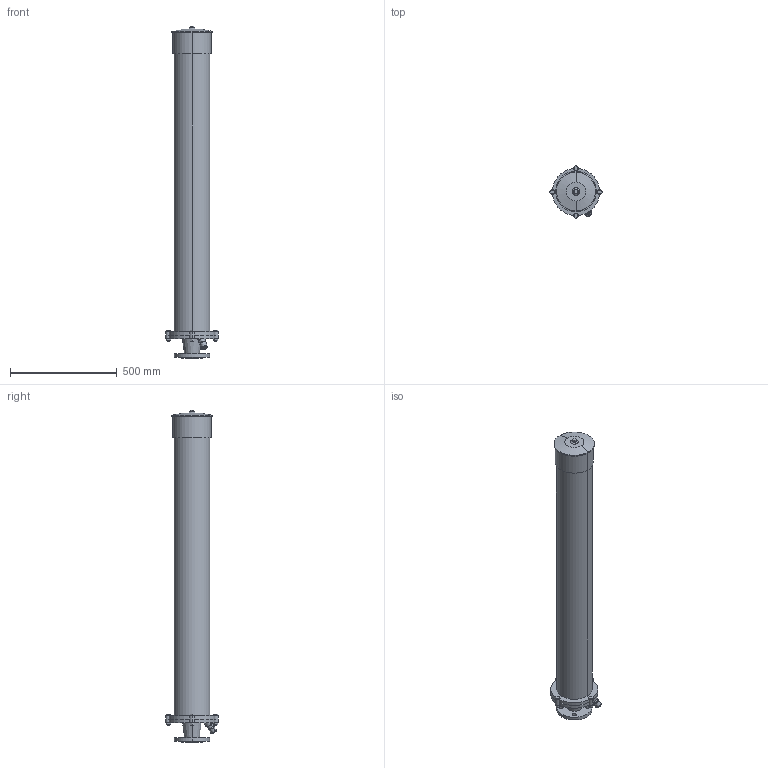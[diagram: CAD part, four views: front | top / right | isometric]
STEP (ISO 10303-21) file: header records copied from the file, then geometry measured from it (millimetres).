
FILE_DESCRIPTION(('STEP AP214'),'1');
FILE_NAME('S:/EK/USER/CAT6/3DHomepage/9822/9822-PN16-DN50-1555.STP','2012-04-26T08:04:58',(' '),(' '),'Spatial InterOp 3D',' ',' ');
FILE_SCHEMA(('automotive_design'));
Length unit declared in the file: millimetre
Products named in the file (37): 3D-Objekt
Bounding box: 245 x 245 x 1555 mm (x, y, z)
Volume: 33770333.5 mm3; surface area: 1276256 mm2
Topology: 37 solids, 37 shells, 196 faces, 368 edges, 244 vertices
Faces by surface type: plane 126, cylinder 54, cone 12, torus 4
Entity records: 7369 total; most frequent: DIRECTION 974, CARTESIAN_POINT 845, ORIENTED_EDGE 736, AXIS2_PLACEMENT_3D 373, EDGE_CURVE 368, VERTEX_POINT 244, STYLED_ITEM 233, PRESENTATION_STYLE_ASSIGNMENT 233
